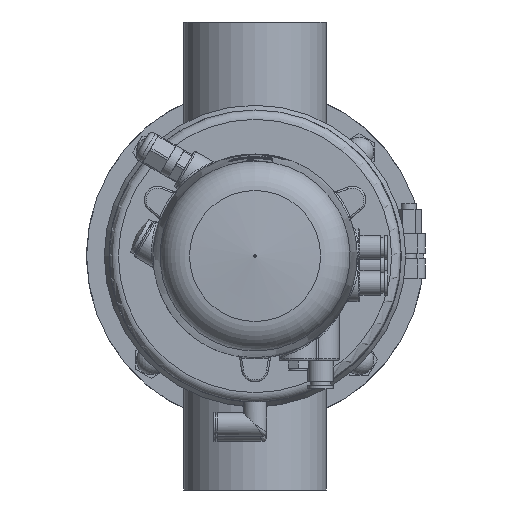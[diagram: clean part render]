
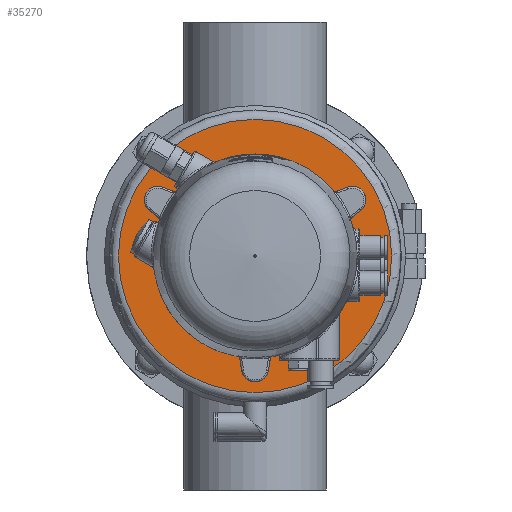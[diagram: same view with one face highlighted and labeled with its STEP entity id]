
A CAD part, front view. The second image highlights one B-rep face of the part: STEP entity #35270.
In plain terms, the highlighted planar face has unit normal (0, -1, 0) as drawn and (0, 1, 0) by its records, which use the part's own axes.
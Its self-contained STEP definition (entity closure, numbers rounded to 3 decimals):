
#1978 = DIRECTION ( 'NONE',  ( 0., -1., 0. ) ) ;
#2115 = DIRECTION ( 'NONE',  ( 0., 1., 0. ) ) ;
#4896 = DIRECTION ( 'NONE',  ( 0., 0., -1. ) ) ;
#4937 = CIRCLE ( 'NONE', #58309, 2.1 ) ;
#6993 = CARTESIAN_POINT ( 'NONE',  ( 0., 263., 0. ) ) ;
#7482 = FACE_BOUND ( 'NONE', #15920, .T. ) ;
#8140 = FACE_BOUND ( 'NONE', #48598, .T. ) ;
#8266 = EDGE_CURVE ( 'NONE', #21120, #21120, #27793, .T. ) ;
#10099 = DIRECTION ( 'NONE',  ( 0., -1., 0. ) ) ;
#10541 = EDGE_CURVE ( 'NONE', #18450, #18450, #54695, .T. ) ;
#12709 = PLANE ( 'NONE',  #22040 ) ;
#13155 = AXIS2_PLACEMENT_3D ( 'NONE', #6993, #2115, #22032 ) ;
#14561 = CARTESIAN_POINT ( 'NONE',  ( 0., 263., 17.5 ) ) ;
#14967 = DIRECTION ( 'NONE',  ( 0., 1., 0. ) ) ;
#15920 = EDGE_LOOP ( 'NONE', ( #62512 ) ) ;
#17785 = CARTESIAN_POINT ( 'NONE',  ( 0., 263., -10. ) ) ;
#18450 = VERTEX_POINT ( 'NONE', #17785 ) ;
#21120 = VERTEX_POINT ( 'NONE', #41830 ) ;
#21780 = CARTESIAN_POINT ( 'NONE',  ( 0., 263., 19.6 ) ) ;
#22032 = DIRECTION ( 'NONE',  ( 0., 0., -1. ) ) ;
#22040 = AXIS2_PLACEMENT_3D ( 'NONE', #32714, #1978, #33062 ) ;
#25554 = EDGE_LOOP ( 'NONE', ( #28535 ) ) ;
#26341 = AXIS2_PLACEMENT_3D ( 'NONE', #54730, #10099, #4896 ) ;
#27188 = AXIS2_PLACEMENT_3D ( 'NONE', #14561, #34600, #54630 ) ;
#27793 = CIRCLE ( 'NONE', #13155, 73. ) ;
#28535 = ORIENTED_EDGE ( 'NONE', *, *, #8266, .T. ) ;
#28843 = EDGE_CURVE ( 'NONE', #48977, #48977, #4937, .T. ) ;
#32714 = CARTESIAN_POINT ( 'NONE',  ( -78., 263., 0. ) ) ;
#33062 = DIRECTION ( 'NONE',  ( 0., 0., -1. ) ) ;
#34600 = DIRECTION ( 'NONE',  ( 0., 1., 0. ) ) ;
#35270 = ADVANCED_FACE ( 'NONE', ( #8140, #7482, #62589, #62910 ), #12709, .F. ) ;
#41830 = CARTESIAN_POINT ( 'NONE',  ( 0., 263., -73. ) ) ;
#42166 = VERTEX_POINT ( 'NONE', #21780 ) ;
#43687 = CARTESIAN_POINT ( 'NONE',  ( 0., 263., -15.4 ) ) ;
#45358 = ORIENTED_EDGE ( 'NONE', *, *, #28843, .F. ) ;
#48598 = EDGE_LOOP ( 'NONE', ( #45358 ) ) ;
#48977 = VERTEX_POINT ( 'NONE', #43687 ) ;
#54403 = DIRECTION ( 'NONE',  ( 0., 0., 1. ) ) ;
#54630 = DIRECTION ( 'NONE',  ( 0., 0., 1. ) ) ;
#54695 = CIRCLE ( 'NONE', #26341, 10. ) ;
#54730 = CARTESIAN_POINT ( 'NONE',  ( 0., 263., 0. ) ) ;
#56572 = ORIENTED_EDGE ( 'NONE', *, *, #10541, .T. ) ;
#57590 = EDGE_CURVE ( 'NONE', #42166, #42166, #63871, .T. ) ;
#58309 = AXIS2_PLACEMENT_3D ( 'NONE', #59944, #14967, #54403 ) ;
#59944 = CARTESIAN_POINT ( 'NONE',  ( 0., 263., -17.5 ) ) ;
#60857 = EDGE_LOOP ( 'NONE', ( #56572 ) ) ;
#62512 = ORIENTED_EDGE ( 'NONE', *, *, #57590, .F. ) ;
#62589 = FACE_OUTER_BOUND ( 'NONE', #25554, .T. ) ;
#62910 = FACE_BOUND ( 'NONE', #60857, .T. ) ;
#63871 = CIRCLE ( 'NONE', #27188, 2.1 ) ;
